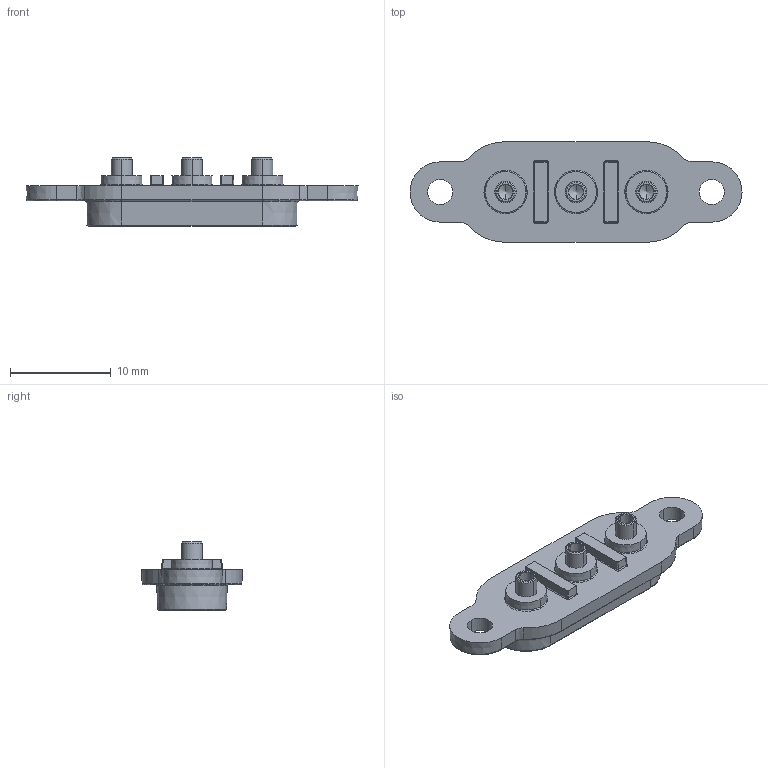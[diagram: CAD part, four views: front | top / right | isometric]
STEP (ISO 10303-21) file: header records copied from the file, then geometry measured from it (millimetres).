
FILE_DESCRIPTION (( 'STEP AP214' ), '1' );
FILE_NAME ('Swift-Dock-3-L.STEP', '2021-08-06T10:22:23', ( '' ), ( '' ), 'SwSTEP 2.0', 'SolidWorks 2021', '' );
FILE_SCHEMA (( 'AUTOMOTIVE_DESIGN' ));
Length unit declared in the file: millimetre
Products named in the file (4): land body_3 hole; SD3L_SD3L_NO PCB; Swift-Dock-3-L; Coda_IPP2S-A_contact land_3
Assembly tree (5 placements, depth 3):
  Swift-Dock-3-L
    SD3L_SD3L_NO PCB
      land body_3 hole
      Coda_IPP2S-A_contact land_3  x3
Bounding box: 33 x 10 x 6.76 mm (x, y, z)
Volume: 771.7 mm3; surface area: 1154.7 mm2
Topology: 4 solids, 4 shells, 205 faces, 446 edges, 261 vertices
Faces by surface type: cone 68, cylinder 60, plane 39, bspline 38
Entity records: 6811 total; most frequent: CARTESIAN_POINT 1641, ORIENTED_EDGE 696, DIRECTION 692, EDGE_CURVE 348, AXIS2_PLACEMENT_3D 278, VERTEX_POINT 207, EDGE_LOOP 179, UNCERTAINTY_MEASURE_WITH_UNIT 165
